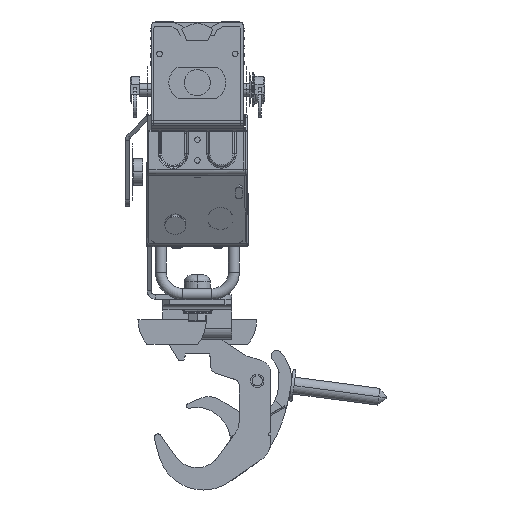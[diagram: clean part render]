
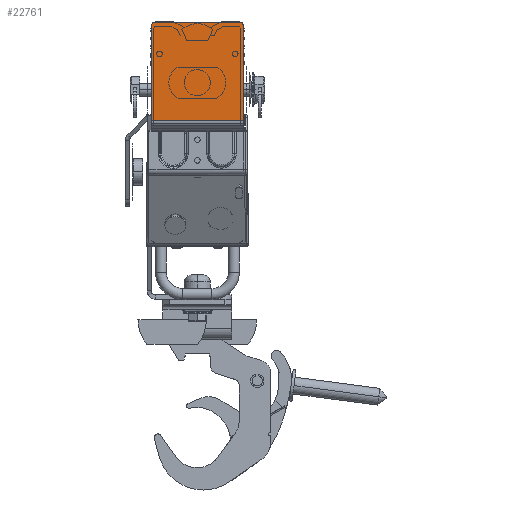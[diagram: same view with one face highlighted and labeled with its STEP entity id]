
A CAD part, front view. The second image highlights one B-rep face of the part: STEP entity #22761.
In plain terms, the highlighted planar face has unit normal (0, -1, 0).
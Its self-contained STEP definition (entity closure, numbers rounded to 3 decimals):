
#21880=DIRECTION('',(0.,0.,1.));
#21881=VECTOR('',#21880,68.629);
#21882=CARTESIAN_POINT('',(33.5,-750.,-30.589));
#21883=LINE('',#21882,#21881);
#21892=CARTESIAN_POINT('',(-30.5,-750.,38.04));
#21893=DIRECTION('',(0.,1.,0.));
#21894=DIRECTION('',(-1.,0.,0.));
#21895=AXIS2_PLACEMENT_3D('',#21892,#21893,#21894);
#21897=CARTESIAN_POINT('',(30.5,-750.,38.04));
#21898=DIRECTION('',(0.,1.,0.));
#21899=DIRECTION('',(0.,0.,1.));
#21900=AXIS2_PLACEMENT_3D('',#21897,#21898,#21899);
#21902=DIRECTION('',(0.,0.,1.));
#21903=VECTOR('',#21902,68.629);
#21904=CARTESIAN_POINT('',(-33.5,-750.,-30.589));
#21905=LINE('',#21904,#21903);
#21906=DIRECTION('',(-1.,0.,0.));
#21907=VECTOR('',#21906,61.);
#21908=CARTESIAN_POINT('',(30.5,-750.,41.04));
#21909=LINE('',#21908,#21907);
#21914=DIRECTION('',(1.,0.,0.));
#21915=VECTOR('',#21914,67.);
#21916=CARTESIAN_POINT('',(-33.5,-750.,-30.589));
#21917=LINE('',#21916,#21915);
#22048=CARTESIAN_POINT('',(-33.5,-750.,-30.589));
#22050=VERTEX_POINT('',#22048);
#22052=CARTESIAN_POINT('',(-33.5,-750.,38.04));
#22054=VERTEX_POINT('',#22052);
#22058=CARTESIAN_POINT('',(-30.5,-750.,41.04));
#22059=VERTEX_POINT('',#22058);
#22070=CARTESIAN_POINT('',(33.5,-750.,-30.589));
#22071=VERTEX_POINT('',#22070);
#22072=CARTESIAN_POINT('',(30.5,-750.,41.04));
#22073=VERTEX_POINT('',#22072);
#22074=CARTESIAN_POINT('',(33.5,-750.,38.04));
#22075=VERTEX_POINT('',#22074);
#22746=CARTESIAN_POINT('',(0.,-750.,4.19));
#22747=DIRECTION('',(0.,-1.,0.));
#22748=DIRECTION('',(-1.,0.,0.));
#22749=AXIS2_PLACEMENT_3D('',#22746,#22747,#22748);
#22750=PLANE('',#22749);
#22751=ORIENTED_EDGE('',*,*,#22645,.T.);
#22753=ORIENTED_EDGE('',*,*,#22752,.F.);
#22754=ORIENTED_EDGE('',*,*,#22727,.T.);
#22755=ORIENTED_EDGE('',*,*,#22703,.F.);
#22757=ORIENTED_EDGE('',*,*,#22756,.F.);
#22758=ORIENTED_EDGE('',*,*,#22616,.T.);
#22759=EDGE_LOOP('',(#22751,#22753,#22754,#22755,#22757,#22758));
#22760=FACE_OUTER_BOUND('',#22759,.F.);
#21896=CIRCLE('',#21895,3.);
#21901=CIRCLE('',#21900,3.);
#22616=EDGE_CURVE('',#22050,#22054,#21905,.T.);
#22645=EDGE_CURVE('',#22054,#22059,#21896,.T.);
#22703=EDGE_CURVE('',#22071,#22075,#21883,.T.);
#22727=EDGE_CURVE('',#22073,#22075,#21901,.T.);
#22752=EDGE_CURVE('',#22073,#22059,#21909,.T.);
#22756=EDGE_CURVE('',#22050,#22071,#21917,.T.);
#22761=ADVANCED_FACE('',(#22760),#22750,.T.);
